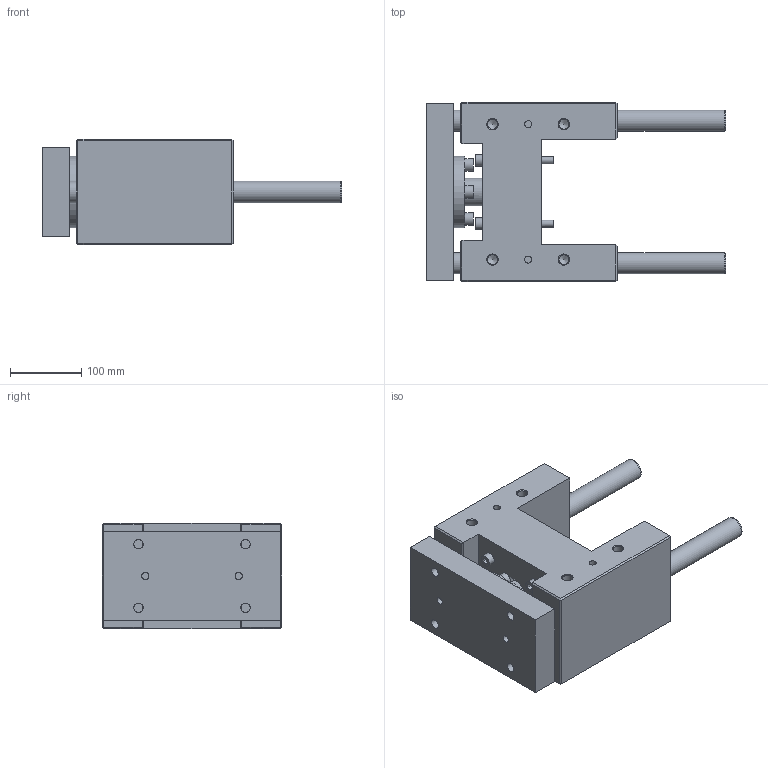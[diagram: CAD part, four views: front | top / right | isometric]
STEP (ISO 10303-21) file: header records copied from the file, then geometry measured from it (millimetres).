
FILE_DESCRIPTION( ( 'STEP AP214' ), '1' );
FILE_NAME( 'U:/Etudes/Top Solid/BIBLIO 3D AVM/TOP/PNEUMATIQUE/GUIDAGES/Type 32 (en H)/R_Renforcée/329R2230.step', '2005-05-27T09:24:29', ( ' ' ), ( ' ' ), 'XStep 1.0', ' ', ' ' );
FILE_SCHEMA( ( 'automotive_design' ) );
Length unit declared in the file: metre
Products named in the file (2): 1; 2
Bounding box: 420 x 252 x 148 mm (x, y, z)
Volume: 6517014.2 mm3; surface area: 533226.9 mm2
Topology: 2 solids, 7 shells, 239 faces, 527 edges, 341 vertices
Faces by surface type: plane 149, cylinder 69, cone 21
Full cylindrical faces by diameter (mm): 10 x12, 10.106 x4, 11 x4, 12 x8, 13 x8, 13.835 x8, 16 x4, 18 x4, 18.376 x2, 20 x4, 30 x4, 39 x1, 42 x1, 55 x1, 57 x1, 60 x1, 65 x1, 100 x1
Entity records: 7933 total; most frequent: CARTESIAN_POINT 1201, DIRECTION 1000, ORIENTED_EDGE 786, EDGE_CURVE 393, EDGE_LOOP 392, AXIS2_PLACEMENT_3D 374, FACE_OUTER_BOUND 308, VERTEX_POINT 303
